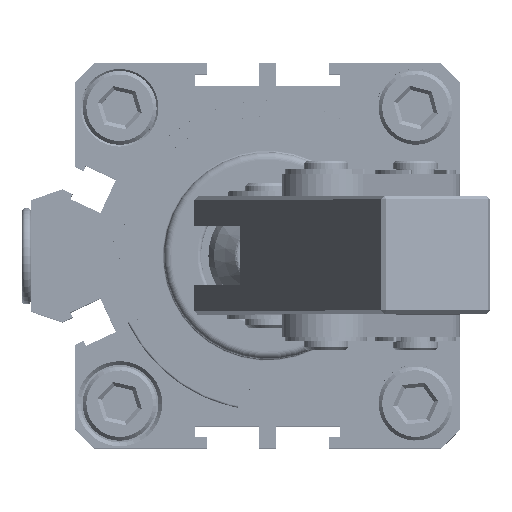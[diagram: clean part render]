
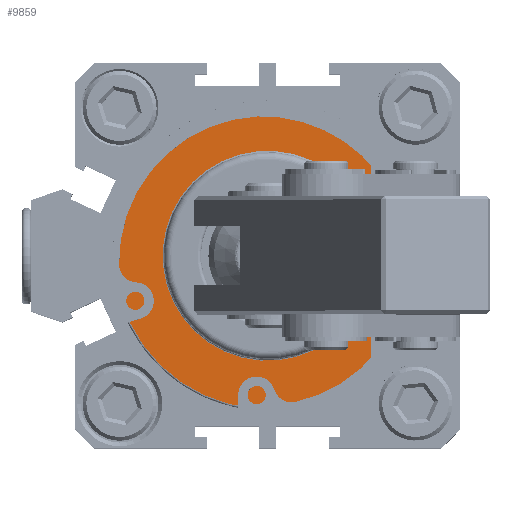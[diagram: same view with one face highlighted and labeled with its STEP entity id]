
A CAD part, top view. The second image highlights one B-rep face of the part: STEP entity #9859.
In plain terms, the highlighted planar face has unit normal (0, 0, 1) as drawn and (0, 1, 0) by its records, which use the part's own axes.
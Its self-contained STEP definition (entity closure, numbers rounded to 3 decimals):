
#258=FACE_BOUND('',#1865,.T.);
#404=PLANE('',#11042);
#1279=FACE_OUTER_BOUND('',#1864,.T.);
#1864=EDGE_LOOP('',(#7932,#7933));
#1865=EDGE_LOOP('',(#7934,#7935));
#3813=CIRCLE('',#10993,14.2);
#3814=CIRCLE('',#10994,14.2);
#3819=CIRCLE('',#11000,20.7);
#3820=CIRCLE('',#11001,20.7);
#4538=VERTEX_POINT('',#21180);
#4539=VERTEX_POINT('',#21181);
#4542=VERTEX_POINT('',#21190);
#4543=VERTEX_POINT('',#21192);
#5754=EDGE_CURVE('',#4538,#4539,#3813,.T.);
#5755=EDGE_CURVE('',#4539,#4538,#3814,.T.);
#5760=EDGE_CURVE('',#4542,#4543,#3819,.T.);
#5761=EDGE_CURVE('',#4543,#4542,#3820,.T.);
#7932=ORIENTED_EDGE('',*,*,#5761,.F.);
#7933=ORIENTED_EDGE('',*,*,#5760,.F.);
#7934=ORIENTED_EDGE('',*,*,#5754,.T.);
#7935=ORIENTED_EDGE('',*,*,#5755,.T.);
#9859=ADVANCED_FACE('',(#1279,#258),#404,.T.);
#10993=AXIS2_PLACEMENT_3D('',#21182,#12954,#12955);
#10994=AXIS2_PLACEMENT_3D('',#21183,#12956,#12957);
#11000=AXIS2_PLACEMENT_3D('',#21193,#12968,#12969);
#11001=AXIS2_PLACEMENT_3D('',#21194,#12970,#12971);
#11042=AXIS2_PLACEMENT_3D('',#21260,#13055,#13056);
#12954=DIRECTION('center_axis',(0.,-1.,0.));
#12955=DIRECTION('ref_axis',(0.,0.,-1.));
#12956=DIRECTION('center_axis',(0.,-1.,0.));
#12957=DIRECTION('ref_axis',(0.,0.,-1.));
#12968=DIRECTION('center_axis',(0.,-1.,0.));
#12969=DIRECTION('ref_axis',(0.,0.,-1.));
#12970=DIRECTION('center_axis',(0.,-1.,0.));
#12971=DIRECTION('ref_axis',(0.,0.,-1.));
#13055=DIRECTION('center_axis',(0.,1.,0.));
#13056=DIRECTION('ref_axis',(0.,0.,1.));
#21180=CARTESIAN_POINT('',(-7743.027,5298.17,-14.2));
#21181=CARTESIAN_POINT('',(-7743.027,5298.17,14.2));
#21182=CARTESIAN_POINT('Origin',(-7743.027,5298.17,0.));
#21183=CARTESIAN_POINT('Origin',(-7743.027,5298.17,0.));
#21190=CARTESIAN_POINT('',(-7743.027,5298.17,20.7));
#21192=CARTESIAN_POINT('',(-7743.027,5298.17,-20.7));
#21193=CARTESIAN_POINT('Origin',(-7743.027,5298.17,0.));
#21194=CARTESIAN_POINT('Origin',(-7743.027,5298.17,0.));
#21260=CARTESIAN_POINT('Origin',(-7728.827,5298.17,0.));
